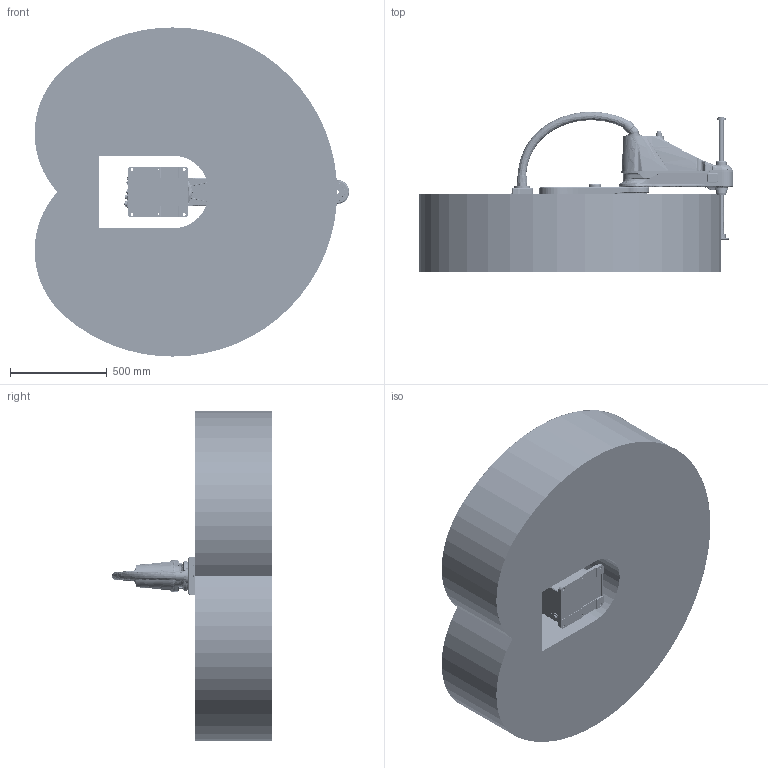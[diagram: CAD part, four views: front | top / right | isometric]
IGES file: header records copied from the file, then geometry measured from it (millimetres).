
Start section: SolidWorks IGES file using analytic representation for surfaces
Global section: file name: X:\03研发部\50-Robot\030AH20\01-Design\_Mechanical\07-AH20对外发布模型\AH20-0850-0204-4000\IGS\AH20-0850-0204-4000-V1.0.0.IGS; native system: SolidWorks 2017; preprocessor: SolidWorks 2017; author: 0741; date: 220602.153222; units: millimetre
Bounding box: 1624.26 x 827.94 x 1700 mm (x, y, z)
Surface area: 8696947.9 mm2 (no closed solid volume)
Topology: 0 solids, 0 shells, 6670 faces, 82474 edges, 82322 vertices
Faces by surface type: bspline 4122, revolution 2548
